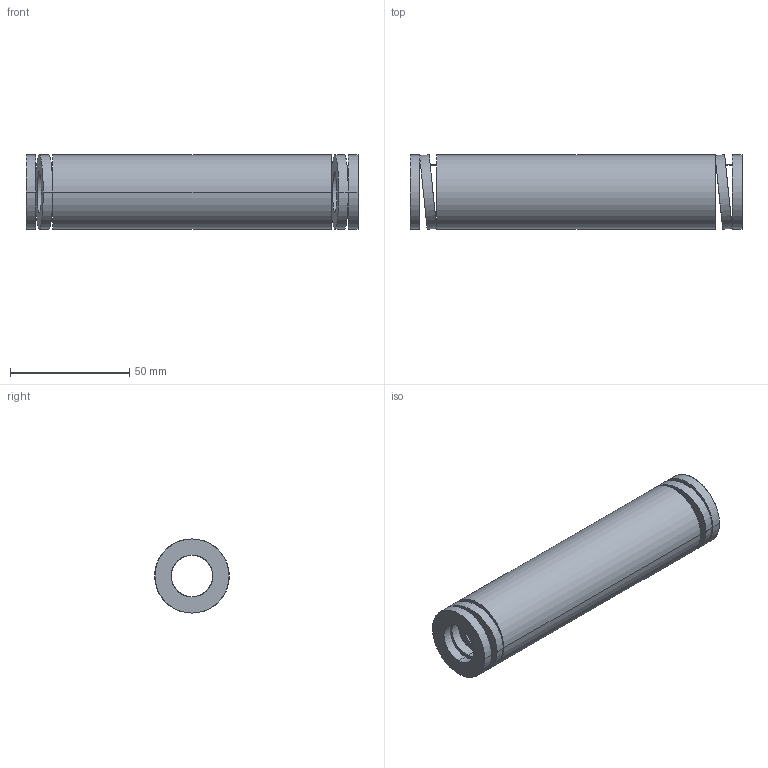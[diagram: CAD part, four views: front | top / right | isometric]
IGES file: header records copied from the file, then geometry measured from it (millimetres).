
Start section: START RECORD GO HERE.
Global section: file name: 392-B32-139.igs; native system: DASSAULT SYSTEMES CATIA V5 R20 - www.3ds.com; preprocessor: CATIA Version 5 Release 20 ; author: Utente; organization: NB04-ASUS; date: 20210813.105232; units: millimetre
Bounding box: 139 x 31.25 x 31 mm (x, y, z)
Surface area: 25309.5 mm2 (no closed solid volume)
Topology: 0 solids, 0 shells, 38 faces, 184 edges, 184 vertices
Faces by surface type: revolution 28, plane 10
